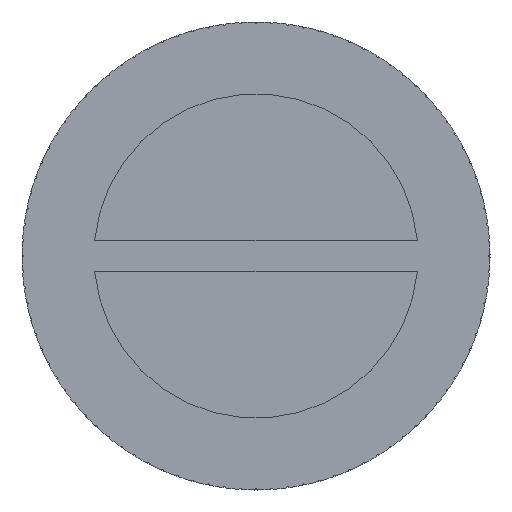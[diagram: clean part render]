
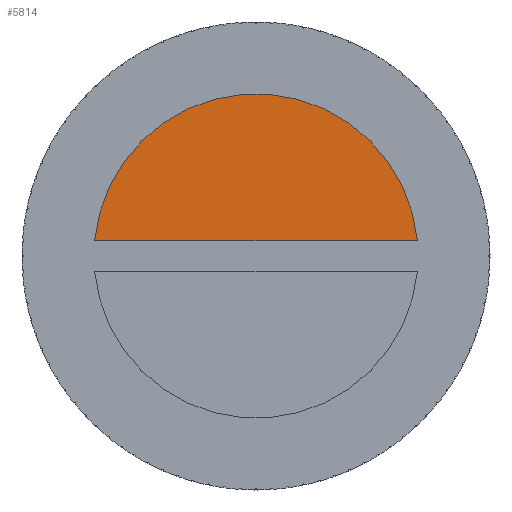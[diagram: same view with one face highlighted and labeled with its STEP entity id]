
A CAD part, front view. The second image highlights one B-rep face of the part: STEP entity #5814.
In plain terms, the highlighted planar face has unit normal (0, -1, 0).
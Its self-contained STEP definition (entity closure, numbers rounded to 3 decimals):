
#2473=CARTESIAN_POINT('',(0.,1.8,0.));
#2474=DIRECTION('',(0.,-1.,0.));
#2475=DIRECTION('',(0.996,0.,0.094));
#2476=AXIS2_PLACEMENT_3D('',#2473,#2474,#2475);
#2478=DIRECTION('',(1.,0.,0.));
#2479=VECTOR('',#2478,21.105);
#2480=CARTESIAN_POINT('',(-10.553,1.8,1.));
#2481=LINE('',#2480,#2479);
#2949=CARTESIAN_POINT('',(10.553,1.8,1.));
#2950=CARTESIAN_POINT('',(-10.553,1.8,1.));
#2951=VERTEX_POINT('',#2949);
#2952=VERTEX_POINT('',#2950);
#5805=CARTESIAN_POINT('',(0.,1.8,0.));
#5806=DIRECTION('',(0.,-1.,0.));
#5807=DIRECTION('',(1.,0.,0.));
#5808=AXIS2_PLACEMENT_3D('',#5805,#5806,#5807);
#5809=PLANE('',#5808);
#5810=ORIENTED_EDGE('',*,*,#5785,.F.);
#5811=ORIENTED_EDGE('',*,*,#5799,.F.);
#5812=EDGE_LOOP('',(#5810,#5811));
#5813=FACE_OUTER_BOUND('',#5812,.F.);
#5814=ADVANCED_FACE('',(#5813),#5809,.T.);
#2477=CIRCLE('',#2476,10.6);
#5785=EDGE_CURVE('',#2951,#2952,#2477,.T.);
#5799=EDGE_CURVE('',#2952,#2951,#2481,.T.);
